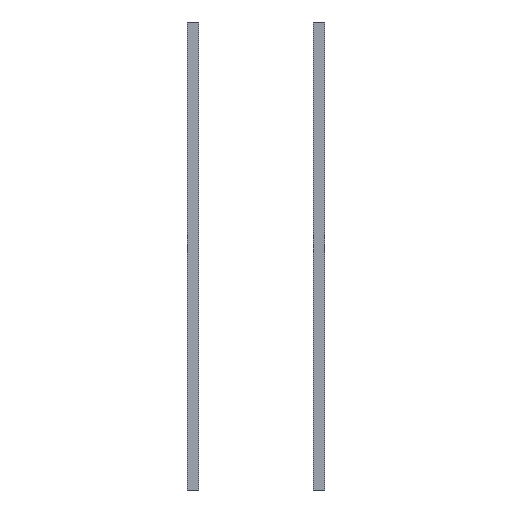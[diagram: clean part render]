
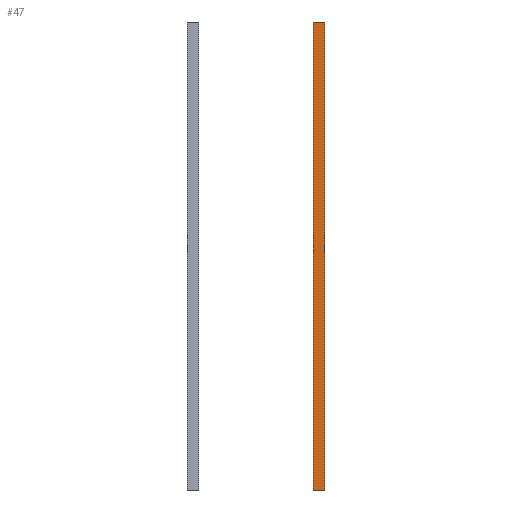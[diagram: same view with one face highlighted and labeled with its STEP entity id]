
A CAD part, left-side view. The second image highlights one B-rep face of the part: STEP entity #47.
In plain terms, the highlighted planar face has unit normal (-1, 0, 0).
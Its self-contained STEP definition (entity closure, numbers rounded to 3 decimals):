
#47 = ADVANCED_FACE('',(#48),#62,.F.);
#48 = FACE_BOUND('',#49,.F.);
#49 = EDGE_LOOP('',(#50,#85,#113,#141));
#50 = ORIENTED_EDGE('',*,*,#51,.F.);
#51 = EDGE_CURVE('',#52,#54,#56,.T.);
#52 = VERTEX_POINT('',#53);
#53 = CARTESIAN_POINT('',(-4.25,-4.25,-170.25));
#54 = VERTEX_POINT('',#55);
#55 = CARTESIAN_POINT('',(-4.25,-4.25,170.25));
#56 = SURFACE_CURVE('',#57,(#61,#73),.PCURVE_S1.);
#57 = LINE('',#58,#59);
#58 = CARTESIAN_POINT('',(-4.25,-4.25,-170.25));
#59 = VECTOR('',#60,1.);
#60 = DIRECTION('',(0.,0.,1.));
#61 = PCURVE('',#62,#67);
#62 = PLANE('',#63);
#63 = AXIS2_PLACEMENT_3D('',#64,#65,#66);
#64 = CARTESIAN_POINT('',(-4.25,-4.25,-170.25));
#65 = DIRECTION('',(1.,0.,-0.));
#66 = DIRECTION('',(0.,0.,1.));
#67 = DEFINITIONAL_REPRESENTATION('',(#68),#72);
#68 = LINE('',#69,#70);
#69 = CARTESIAN_POINT('',(0.,0.));
#70 = VECTOR('',#71,1.);
#71 = DIRECTION('',(1.,0.));
#72 = ( GEOMETRIC_REPRESENTATION_CONTEXT(2) 
PARAMETRIC_REPRESENTATION_CONTEXT() REPRESENTATION_CONTEXT('2D SPACE',''
  ) );
#73 = PCURVE('',#74,#79);
#74 = PLANE('',#75);
#75 = AXIS2_PLACEMENT_3D('',#76,#77,#78);
#76 = CARTESIAN_POINT('',(-4.25,-4.25,-170.25));
#77 = DIRECTION('',(-0.,1.,0.));
#78 = DIRECTION('',(0.,0.,1.));
#79 = DEFINITIONAL_REPRESENTATION('',(#80),#84);
#80 = LINE('',#81,#82);
#81 = CARTESIAN_POINT('',(0.,0.));
#82 = VECTOR('',#83,1.);
#83 = DIRECTION('',(1.,0.));
#84 = ( GEOMETRIC_REPRESENTATION_CONTEXT(2) 
PARAMETRIC_REPRESENTATION_CONTEXT() REPRESENTATION_CONTEXT('2D SPACE',''
  ) );
#85 = ORIENTED_EDGE('',*,*,#86,.T.);
#86 = EDGE_CURVE('',#52,#87,#89,.T.);
#87 = VERTEX_POINT('',#88);
#88 = CARTESIAN_POINT('',(-4.25,4.25,-170.25));
#89 = SURFACE_CURVE('',#90,(#94,#101),.PCURVE_S1.);
#90 = LINE('',#91,#92);
#91 = CARTESIAN_POINT('',(-4.25,-4.25,-170.25));
#92 = VECTOR('',#93,1.);
#93 = DIRECTION('',(-0.,1.,0.));
#94 = PCURVE('',#62,#95);
#95 = DEFINITIONAL_REPRESENTATION('',(#96),#100);
#96 = LINE('',#97,#98);
#97 = CARTESIAN_POINT('',(0.,0.));
#98 = VECTOR('',#99,1.);
#99 = DIRECTION('',(0.,-1.));
#100 = ( GEOMETRIC_REPRESENTATION_CONTEXT(2) 
PARAMETRIC_REPRESENTATION_CONTEXT() REPRESENTATION_CONTEXT('2D SPACE',''
  ) );
#101 = PCURVE('',#102,#107);
#102 = PLANE('',#103);
#103 = AXIS2_PLACEMENT_3D('',#104,#105,#106);
#104 = CARTESIAN_POINT('',(-4.25,-4.25,-170.25));
#105 = DIRECTION('',(0.,0.,1.));
#106 = DIRECTION('',(1.,0.,-0.));
#107 = DEFINITIONAL_REPRESENTATION('',(#108),#112);
#108 = LINE('',#109,#110);
#109 = CARTESIAN_POINT('',(0.,0.));
#110 = VECTOR('',#111,1.);
#111 = DIRECTION('',(0.,1.));
#112 = ( GEOMETRIC_REPRESENTATION_CONTEXT(2) 
PARAMETRIC_REPRESENTATION_CONTEXT() REPRESENTATION_CONTEXT('2D SPACE',''
  ) );
#113 = ORIENTED_EDGE('',*,*,#114,.T.);
#114 = EDGE_CURVE('',#87,#115,#117,.T.);
#115 = VERTEX_POINT('',#116);
#116 = CARTESIAN_POINT('',(-4.25,4.25,170.25));
#117 = SURFACE_CURVE('',#118,(#122,#129),.PCURVE_S1.);
#118 = LINE('',#119,#120);
#119 = CARTESIAN_POINT('',(-4.25,4.25,-170.25));
#120 = VECTOR('',#121,1.);
#121 = DIRECTION('',(0.,0.,1.));
#122 = PCURVE('',#62,#123);
#123 = DEFINITIONAL_REPRESENTATION('',(#124),#128);
#124 = LINE('',#125,#126);
#125 = CARTESIAN_POINT('',(0.,-8.5));
#126 = VECTOR('',#127,1.);
#127 = DIRECTION('',(1.,0.));
#128 = ( GEOMETRIC_REPRESENTATION_CONTEXT(2) 
PARAMETRIC_REPRESENTATION_CONTEXT() REPRESENTATION_CONTEXT('2D SPACE',''
  ) );
#129 = PCURVE('',#130,#135);
#130 = PLANE('',#131);
#131 = AXIS2_PLACEMENT_3D('',#132,#133,#134);
#132 = CARTESIAN_POINT('',(-4.25,4.25,-170.25));
#133 = DIRECTION('',(-0.,1.,0.));
#134 = DIRECTION('',(0.,0.,1.));
#135 = DEFINITIONAL_REPRESENTATION('',(#136),#140);
#136 = LINE('',#137,#138);
#137 = CARTESIAN_POINT('',(0.,0.));
#138 = VECTOR('',#139,1.);
#139 = DIRECTION('',(1.,0.));
#140 = ( GEOMETRIC_REPRESENTATION_CONTEXT(2) 
PARAMETRIC_REPRESENTATION_CONTEXT() REPRESENTATION_CONTEXT('2D SPACE',''
  ) );
#141 = ORIENTED_EDGE('',*,*,#142,.F.);
#142 = EDGE_CURVE('',#54,#115,#143,.T.);
#143 = SURFACE_CURVE('',#144,(#148,#155),.PCURVE_S1.);
#144 = LINE('',#145,#146);
#145 = CARTESIAN_POINT('',(-4.25,-4.25,170.25));
#146 = VECTOR('',#147,1.);
#147 = DIRECTION('',(-0.,1.,0.));
#148 = PCURVE('',#62,#149);
#149 = DEFINITIONAL_REPRESENTATION('',(#150),#154);
#150 = LINE('',#151,#152);
#151 = CARTESIAN_POINT('',(340.5,0.));
#152 = VECTOR('',#153,1.);
#153 = DIRECTION('',(0.,-1.));
#154 = ( GEOMETRIC_REPRESENTATION_CONTEXT(2) 
PARAMETRIC_REPRESENTATION_CONTEXT() REPRESENTATION_CONTEXT('2D SPACE',''
  ) );
#155 = PCURVE('',#156,#161);
#156 = PLANE('',#157);
#157 = AXIS2_PLACEMENT_3D('',#158,#159,#160);
#158 = CARTESIAN_POINT('',(-4.25,-4.25,170.25));
#159 = DIRECTION('',(0.,0.,1.));
#160 = DIRECTION('',(1.,0.,-0.));
#161 = DEFINITIONAL_REPRESENTATION('',(#162),#166);
#162 = LINE('',#163,#164);
#163 = CARTESIAN_POINT('',(0.,0.));
#164 = VECTOR('',#165,1.);
#165 = DIRECTION('',(0.,1.));
#166 = ( GEOMETRIC_REPRESENTATION_CONTEXT(2) 
PARAMETRIC_REPRESENTATION_CONTEXT() REPRESENTATION_CONTEXT('2D SPACE',''
  ) );
